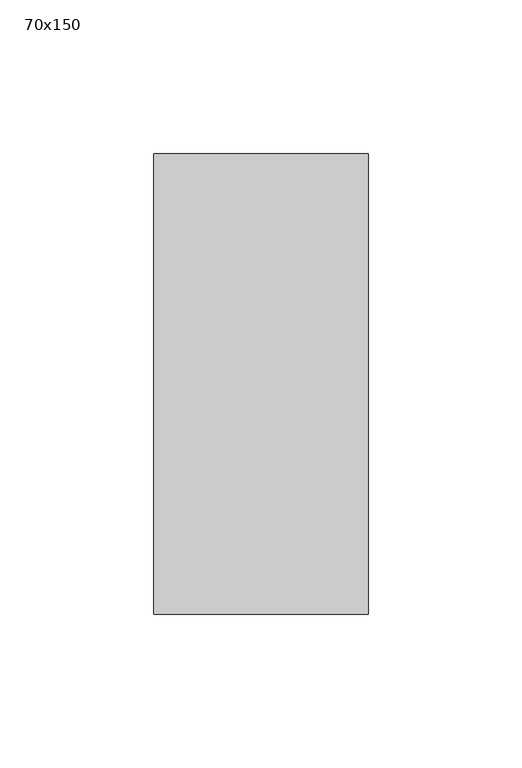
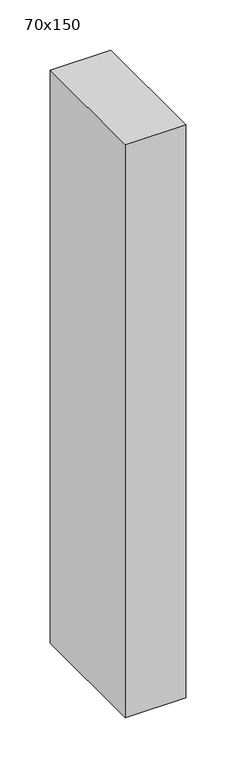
"""IFC4 building model written with IfcOpenShell, lengths in millimetres: member geometry, 長方形のマリオン : 70x150."""

from ifc_helpers import new_model, si_unit, frame, origin, place, context, project, spatial, polyline, outline, extrude, source, transform, mapped, element, save


def member_70x150_ebb47e88(model_context):
    return source(origin(), model_context, "Body", "SweptSolid", [
        extrude(outline(polyline([(35.0, 75.0), (35.0, -75.0), (-35.0, -75.0), (-35.0, 75.0), (35.0, 75.0)])), frame((0.0, 0.0, -700.0), z_axis=(0.0, 0.0, 1.0), x_axis=(1.0, 0.0, 0.0)), (0.0, 0.0, 1.0), 700.0),
    ])


if __name__ == "__main__":
    model = new_model("IFC4")
    model_context = context("Model", 3, world=origin())
    ifc_project = project(units=[si_unit("LENGTHUNIT", "METRE", prefix="MILLI")], contexts=[model_context])
    site = spatial("IfcSite", under=ifc_project)
    building = spatial("IfcBuilding", under=site)
    placement = place(None, origin())
    member_70x150_shape = member_70x150_ebb47e88(model_context)
    element("IfcMember", 1, ObjectType="長方形のマリオン : 70x150", at=placement, inside=building, context=model_context, shape_type="MappedRepresentation", body=[
        mapped(member_70x150_shape, transform((0.0, 0.0, 0.0), x_axis=(1.0, 0.0, 0.0), y_axis=(0.0, 1.0, 0.0), z_axis=(0.0, 0.0, 1.0))),
    ])
    save(model, "model.ifc")
